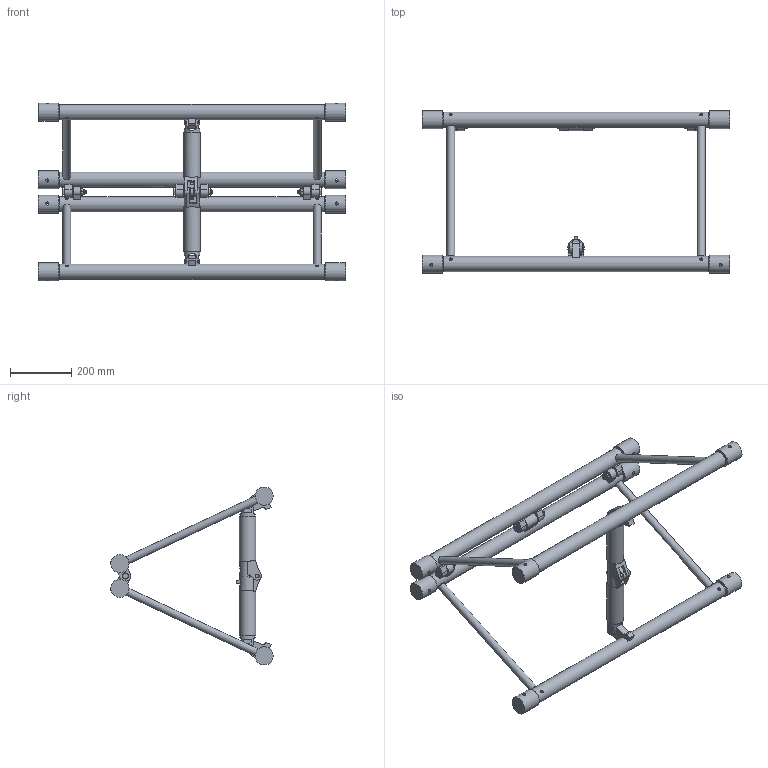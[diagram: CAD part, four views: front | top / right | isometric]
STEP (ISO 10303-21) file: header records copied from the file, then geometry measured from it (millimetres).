
FILE_DESCRIPTION(/* description */ ('FOLDING 52 LENGTH 100 CM'),/* implementation_level */ '2;1');
FILE_NAME(/* name */ 'M:\Symbolen_NIEUW\STP\52-er truss\S52F\S52F-L100_111110083.stp',/* time_stamp */ '2017-11-10T13:59:51+01:00',/* author */ ('Kees'),/* organization */ (''),/* preprocessor_version */ 'ST-DEVELOPER v16.13',/* originating_system */ 'Autodesk Inventor 2018',/* authorisation */ '');
FILE_SCHEMA (('AUTOMOTIVE_DESIGN { 1 0 10303 214 3 1 1 }'));
Length unit declared in the file: millimetre
Products named in the file (1): 260008496
Bounding box: 1000 x 528.69 x 578.8 mm (x, y, z)
Volume: 10464534.5 mm3; surface area: 1033512.3 mm2
Topology: 28 solids, 28 shells, 502 faces, 1181 edges, 769 vertices
Faces by surface type: plane 290, cylinder 147, cone 65
Full cylindrical faces by diameter (mm): 10 x8, 12 x10, 12.5 x7, 12.8 x4, 13 x8, 17.4 x6, 24 x4, 25 x4, 50 x6, 54 x2, 58.8 x8
Entity records: 15408 total; most frequent: CARTESIAN_POINT 4084, DIRECTION 2195, ORIENTED_EDGE 2106, EDGE_CURVE 1053, AXIS2_PLACEMENT_3D 847, VERTEX_POINT 748, EDGE_LOOP 693, LINE 501
